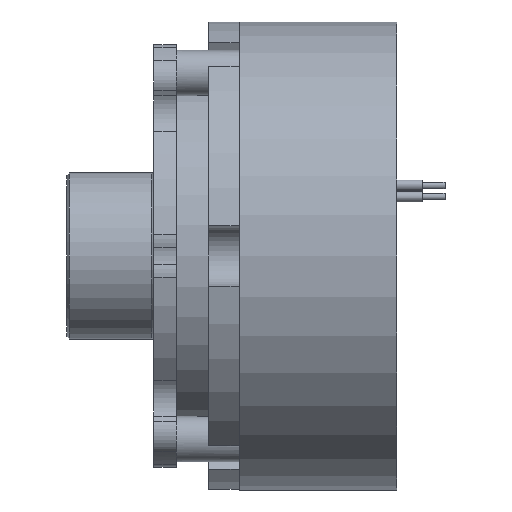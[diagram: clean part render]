
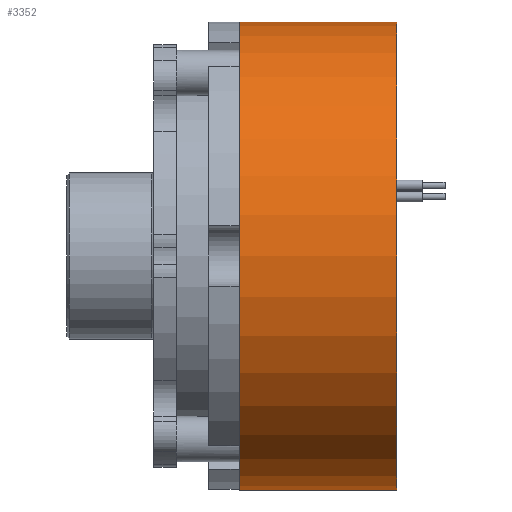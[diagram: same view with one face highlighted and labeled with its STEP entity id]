
A CAD part, front view. The second image highlights one B-rep face of the part: STEP entity #3352.
In plain terms, the highlighted cylindrical face has radius 31 mm (diameter 62 mm), a partial arc.
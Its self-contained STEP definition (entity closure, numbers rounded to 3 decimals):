
#94 = VECTOR ( 'NONE', #853, 1000. ) ;
#209 = EDGE_CURVE ( 'NONE', #2614, #4644, #1586, .T. ) ;
#578 = AXIS2_PLACEMENT_3D ( 'NONE', #3946, #3934, #4020 ) ;
#730 = ORIENTED_EDGE ( 'NONE', *, *, #209, .T. ) ;
#832 = CIRCLE ( 'NONE', #1342, 31. ) ;
#853 = DIRECTION ( 'NONE',  ( -1., 0., 0. ) ) ;
#1193 = ORIENTED_EDGE ( 'NONE', *, *, #4701, .F. ) ;
#1342 = AXIS2_PLACEMENT_3D ( 'NONE', #1552, #1535, #1561 ) ;
#1452 = EDGE_CURVE ( 'NONE', #3193, #2614, #832, .T. ) ;
#1478 = CARTESIAN_POINT ( 'NONE',  ( 0., 0., 31. ) ) ;
#1523 = CYLINDRICAL_SURFACE ( 'NONE', #578, 31. ) ;
#1535 = DIRECTION ( 'NONE',  ( -1., 0., 0. ) ) ;
#1552 = CARTESIAN_POINT ( 'NONE',  ( 20.8, 0., 0. ) ) ;
#1561 = DIRECTION ( 'NONE',  ( 0., 0., 1. ) ) ;
#1586 = LINE ( 'NONE', #1478, #94 ) ;
#1758 = AXIS2_PLACEMENT_3D ( 'NONE', #3977, #3953, #3857 ) ;
#1852 = ORIENTED_EDGE ( 'NONE', *, *, #4830, .F. ) ;
#2223 = CARTESIAN_POINT ( 'NONE',  ( 0., 0., -31. ) ) ;
#2238 = VERTEX_POINT ( 'NONE', #3546 ) ;
#2614 = VERTEX_POINT ( 'NONE', #3279 ) ;
#3193 = VERTEX_POINT ( 'NONE', #4247 ) ;
#3262 = EDGE_LOOP ( 'NONE', ( #1193, #3492, #730, #1852 ) ) ;
#3279 = CARTESIAN_POINT ( 'NONE',  ( 20.8, 0., 31. ) ) ;
#3352 = ADVANCED_FACE ( 'NONE', ( #3730 ), #1523, .T. ) ;
#3383 = CIRCLE ( 'NONE', #1758, 31. ) ;
#3427 = VECTOR ( 'NONE', #4652, 1000. ) ;
#3492 = ORIENTED_EDGE ( 'NONE', *, *, #1452, .T. ) ;
#3546 = CARTESIAN_POINT ( 'NONE',  ( 0., 0., -31. ) ) ;
#3730 = FACE_OUTER_BOUND ( 'NONE', #3262, .T. ) ;
#3847 = CARTESIAN_POINT ( 'NONE',  ( 0., 0., 31. ) ) ;
#3857 = DIRECTION ( 'NONE',  ( 0., 0., 1. ) ) ;
#3934 = DIRECTION ( 'NONE',  ( -1., 0., 0. ) ) ;
#3946 = CARTESIAN_POINT ( 'NONE',  ( 0., 0., 0. ) ) ;
#3953 = DIRECTION ( 'NONE',  ( -1., 0., 0. ) ) ;
#3977 = CARTESIAN_POINT ( 'NONE',  ( 0., 0., 0. ) ) ;
#4020 = DIRECTION ( 'NONE',  ( 0., 0., 1. ) ) ;
#4247 = CARTESIAN_POINT ( 'NONE',  ( 20.8, 0., -31. ) ) ;
#4644 = VERTEX_POINT ( 'NONE', #3847 ) ;
#4652 = DIRECTION ( 'NONE',  ( -1., 0., 0. ) ) ;
#4701 = EDGE_CURVE ( 'NONE', #3193, #2238, #4824, .T. ) ;
#4824 = LINE ( 'NONE', #2223, #3427 ) ;
#4830 = EDGE_CURVE ( 'NONE', #2238, #4644, #3383, .T. ) ;
